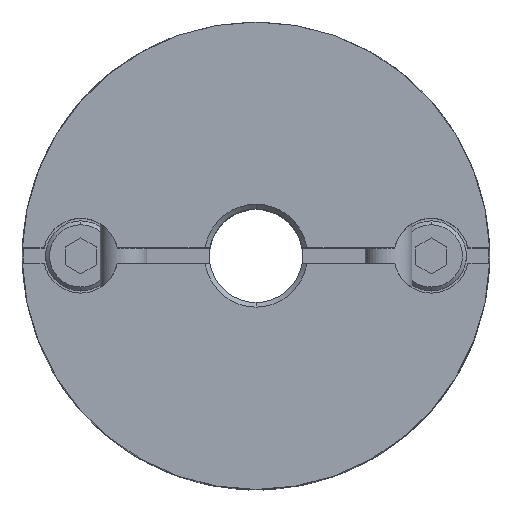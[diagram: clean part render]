
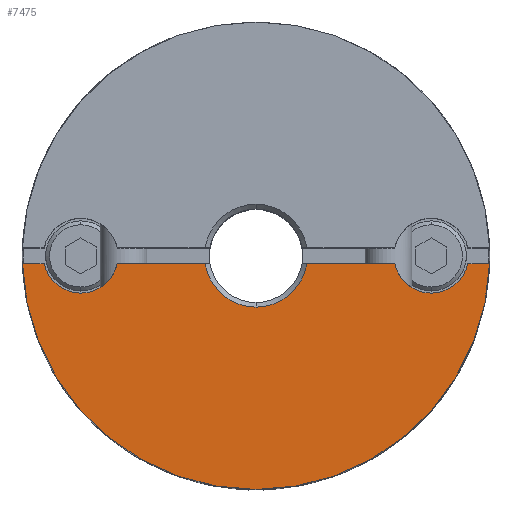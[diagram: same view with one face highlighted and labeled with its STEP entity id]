
A CAD part, top view. The second image highlights one B-rep face of the part: STEP entity #7475.
In plain terms, the highlighted planar face has unit normal (0, 0, 1).
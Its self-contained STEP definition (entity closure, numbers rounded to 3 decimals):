
#622=CARTESIAN_POINT('',(0.,-15.0,11.8));
#623=VERTEX_POINT('',#622);
#630=CARTESIAN_POINT('',(-14.992,-0.5,11.8));
#631=VERTEX_POINT('',#630);
#632=CARTESIAN_POINT('',(0.0,0.0,11.8));
#633=DIRECTION('',(0.0,0.0,-1.0));
#634=DIRECTION('',(0.0,1.0,0.0));
#635=AXIS2_PLACEMENT_3D('',#632,#633,#634);
#636=CIRCLE('',#635,15.0);
#637=EDGE_CURVE('',#623,#631,#636,.T.);
#1032=CARTESIAN_POINT('',(0.,-3.3,11.8));
#1033=VERTEX_POINT('',#1032);
#1041=CARTESIAN_POINT('',(-3.262,-0.5,11.8));
#1042=VERTEX_POINT('',#1041);
#1056=CARTESIAN_POINT('',(0.0,0.0,11.8));
#1057=DIRECTION('',(0.0,0.0,1.0));
#1058=DIRECTION('',(0.0,-1.0,0.0));
#1059=AXIS2_PLACEMENT_3D('',#1056,#1057,#1058);
#1060=CIRCLE('',#1059,3.3);
#1061=EDGE_CURVE('',#1042,#1033,#1060,.T.);
#1353=CARTESIAN_POINT('',(-11.25,-2.4,11.8));
#1354=VERTEX_POINT('',#1353);
#1370=CARTESIAN_POINT('',(-13.597,-0.5,11.8));
#1371=VERTEX_POINT('',#1370);
#1378=CARTESIAN_POINT('',(-11.25,0.,11.8));
#1379=DIRECTION('',(0.0,0.0,-1.0));
#1380=DIRECTION('',(0.0,1.0,0.0));
#1381=AXIS2_PLACEMENT_3D('',#1378,#1379,#1380);
#1382=CIRCLE('',#1381,2.4);
#1383=EDGE_CURVE('',#1354,#1371,#1382,.T.);
#1585=CARTESIAN_POINT('',(11.25,-2.4,11.8));
#1586=VERTEX_POINT('',#1585);
#1652=CARTESIAN_POINT('',(8.903,-0.5,11.8));
#1653=VERTEX_POINT('',#1652);
#1660=CARTESIAN_POINT('',(11.25,0.,11.8));
#1661=DIRECTION('',(0.0,0.0,-1.0));
#1662=DIRECTION('',(0.0,1.0,0.0));
#1663=AXIS2_PLACEMENT_3D('',#1660,#1661,#1662);
#1664=CIRCLE('',#1663,2.4);
#1665=EDGE_CURVE('',#1586,#1653,#1664,.T.);
#5973=CARTESIAN_POINT('',(13.597,-0.5,11.8));
#5974=VERTEX_POINT('',#5973);
#5975=CARTESIAN_POINT('',(11.25,0.,11.8));
#5976=DIRECTION('',(0.0,0.0,-1.0));
#5977=DIRECTION('',(0.0,1.0,0.0));
#5978=AXIS2_PLACEMENT_3D('',#5975,#5976,#5977);
#5979=CIRCLE('',#5978,2.4);
#5980=EDGE_CURVE('',#5974,#1586,#5979,.T.);
#6380=CARTESIAN_POINT('',(-8.903,-0.5,11.8));
#6381=VERTEX_POINT('',#6380);
#6382=CARTESIAN_POINT('',(-11.25,0.,11.8));
#6383=DIRECTION('',(0.0,0.0,-1.0));
#6384=DIRECTION('',(0.0,1.0,0.0));
#6385=AXIS2_PLACEMENT_3D('',#6382,#6383,#6384);
#6386=CIRCLE('',#6385,2.4);
#6387=EDGE_CURVE('',#6381,#1354,#6386,.T.);
#6510=CARTESIAN_POINT('',(-3.262,-0.5,11.8));
#6511=DIRECTION('',(-1.0,0.0,0.0));
#6512=VECTOR('',#6511,5.641);
#6513=LINE('',#6510,#6512);
#6514=EDGE_CURVE('',#1042,#6381,#6513,.T.);
#6627=CARTESIAN_POINT('',(3.262,-0.5,11.8));
#6628=VERTEX_POINT('',#6627);
#6642=CARTESIAN_POINT('',(8.903,-0.5,11.8));
#6643=DIRECTION('',(-1.0,0.0,0.0));
#6644=VECTOR('',#6643,5.641);
#6645=LINE('',#6642,#6644);
#6646=EDGE_CURVE('',#1653,#6628,#6645,.T.);
#7222=CARTESIAN_POINT('',(14.992,-0.5,11.8));
#7223=VERTEX_POINT('',#7222);
#7224=CARTESIAN_POINT('',(14.992,-0.5,11.8));
#7225=DIRECTION('',(-1.0,0.0,0.0));
#7226=VECTOR('',#7225,1.394);
#7227=LINE('',#7224,#7226);
#7228=EDGE_CURVE('',#7223,#5974,#7227,.T.);
#7342=CARTESIAN_POINT('',(-13.597,-0.5,11.8));
#7343=DIRECTION('',(-1.0,0.0,0.0));
#7344=VECTOR('',#7343,1.394);
#7345=LINE('',#7342,#7344);
#7346=EDGE_CURVE('',#1371,#631,#7345,.T.);
#7444=CARTESIAN_POINT('',(0.,1.364,11.8));
#7445=DIRECTION('',(0.0,0.0,1.0));
#7446=DIRECTION('',(0.0,1.0,0.0));
#7447=AXIS2_PLACEMENT_3D('',#7444,#7445,#7446);
#7448=PLANE('',#7447);
#7449=ORIENTED_EDGE('',*,*,#5980,.T.);
#7450=ORIENTED_EDGE('',*,*,#1665,.T.);
#7451=ORIENTED_EDGE('',*,*,#6646,.T.);
#7452=CARTESIAN_POINT('',(0.0,0.0,11.8));
#7453=DIRECTION('',(0.0,0.0,1.0));
#7454=DIRECTION('',(0.0,-1.0,0.0));
#7455=AXIS2_PLACEMENT_3D('',#7452,#7453,#7454);
#7456=CIRCLE('',#7455,3.3);
#7457=EDGE_CURVE('',#1033,#6628,#7456,.T.);
#7458=ORIENTED_EDGE('',*,*,#7457,.F.);
#7459=ORIENTED_EDGE('',*,*,#1061,.F.);
#7460=ORIENTED_EDGE('',*,*,#6514,.T.);
#7461=ORIENTED_EDGE('',*,*,#6387,.T.);
#7462=ORIENTED_EDGE('',*,*,#1383,.T.);
#7463=ORIENTED_EDGE('',*,*,#7346,.T.);
#7464=ORIENTED_EDGE('',*,*,#637,.F.);
#7465=CARTESIAN_POINT('',(0.0,0.0,11.8));
#7466=DIRECTION('',(0.0,0.0,-1.0));
#7467=DIRECTION('',(0.0,1.0,0.0));
#7468=AXIS2_PLACEMENT_3D('',#7465,#7466,#7467);
#7469=CIRCLE('',#7468,15.0);
#7470=EDGE_CURVE('',#7223,#623,#7469,.T.);
#7471=ORIENTED_EDGE('',*,*,#7470,.F.);
#7472=ORIENTED_EDGE('',*,*,#7228,.T.);
#7473=EDGE_LOOP('',(#7449,#7450,#7451,#7458,#7459,#7460,#7461,#7462,#7463,#7464,#7471,#7472));
#7474=FACE_OUTER_BOUND('',#7473,.T.);
#7475=ADVANCED_FACE('',(#7474),#7448,.T.);
